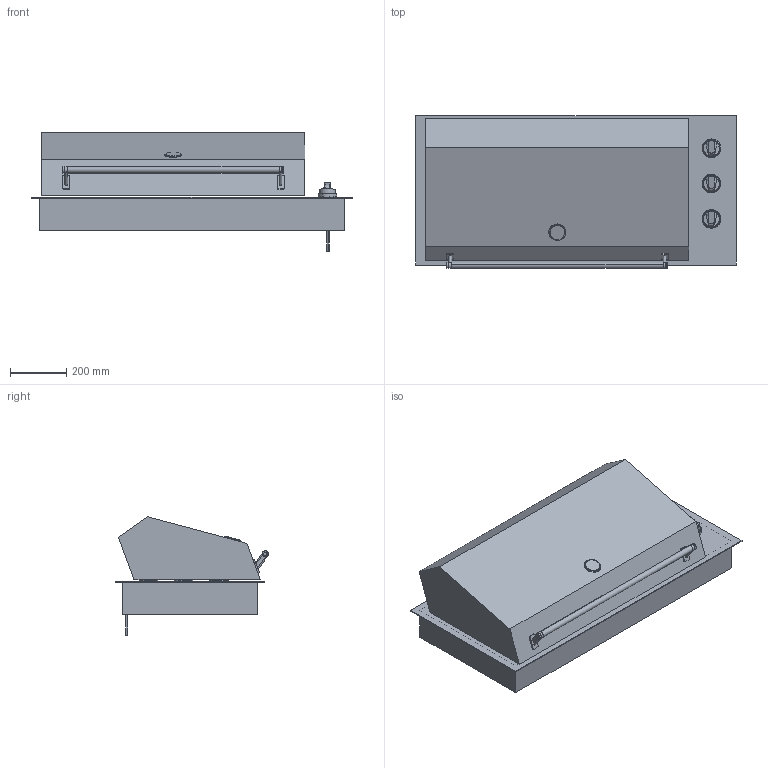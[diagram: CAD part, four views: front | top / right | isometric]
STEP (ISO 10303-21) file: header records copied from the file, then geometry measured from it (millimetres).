
FILE_DESCRIPTION(/* description */ ('Unknown'),/* implementation_level */ '2;1');
FILE_NAME(/* name */ 'BBQE12X',/* time_stamp */ '2025-07-17T10:52:49+02:00',/* author */ ('Unknown'),/* organization */ ('Unknown'),/* preprocessor_version */ 'ST-DEVELOPER v16.7',/* originating_system */ 'DEX',/* authorisation */ $);
FILE_SCHEMA (('AUTOMOTIVE_DESIGN {1 0 10303 214 3 1 1}'));
Length unit declared in the file: millimetre
Products named in the file (1): BBQE12X
Bounding box: 1135 x 542.38 x 420.38 mm (x, y, z)
Volume: 137716341.6 mm3; surface area: 4093659.9 mm2
Topology: 20 solids, 20 shells, 175 faces, 384 edges, 258 vertices
Faces by surface type: plane 84, bspline 55, cylinder 26, cone 10
Full cylindrical faces by diameter (mm): 11.999 x2, 60.434 x1
Entity records: 8501 total; most frequent: CARTESIAN_POINT 4801, ORIENTED_EDGE 738, DIRECTION 547, EDGE_CURVE 369, VERTEX_POINT 253, AXIS2_PLACEMENT_3D 228, EDGE_LOOP 200, FACE_BOUND 200
